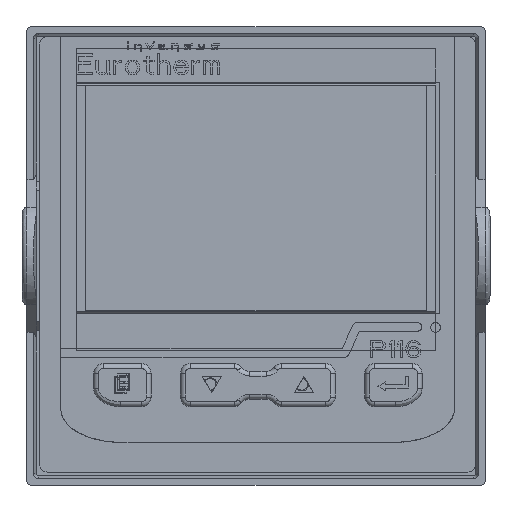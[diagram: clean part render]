
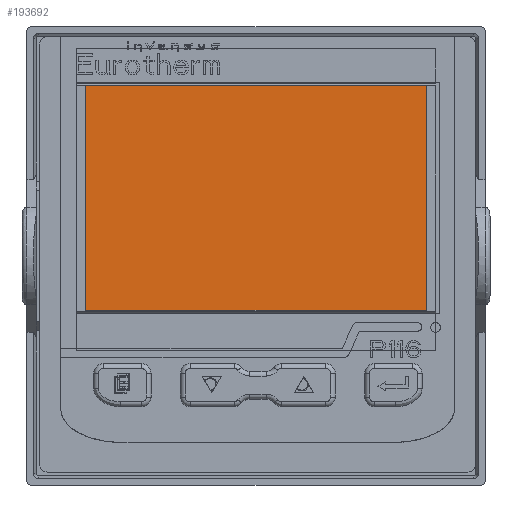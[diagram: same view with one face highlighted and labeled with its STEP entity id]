
A CAD part, top view. The second image highlights one B-rep face of the part: STEP entity #193692.
In plain terms, the highlighted planar face has unit normal (0, 0, 1).
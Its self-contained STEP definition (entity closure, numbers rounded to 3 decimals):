
#53871=DIRECTION('',(0.,-1.,0.));
#53872=VECTOR('',#53871,23.488);
#53873=CARTESIAN_POINT('',(-17.8,17.789,2.));
#53874=LINE('',#53873,#53872);
#53887=DIRECTION('',(0.,1.,0.));
#53888=VECTOR('',#53887,23.488);
#53889=CARTESIAN_POINT('',(17.8,-5.699,2.));
#53890=LINE('',#53889,#53888);
#53895=DIRECTION('',(-1.,0.,0.));
#53896=VECTOR('',#53895,35.6);
#53897=CARTESIAN_POINT('',(17.8,17.789,2.));
#53898=LINE('',#53897,#53896);
#53899=DIRECTION('',(1.,0.,0.));
#53900=VECTOR('',#53899,35.6);
#53901=CARTESIAN_POINT('',(-17.8,-5.699,2.));
#53902=LINE('',#53901,#53900);
#74202=CARTESIAN_POINT('',(17.8,-5.699,2.));
#74203=CARTESIAN_POINT('',(17.8,17.789,2.));
#74204=VERTEX_POINT('',#74202);
#74205=VERTEX_POINT('',#74203);
#74206=CARTESIAN_POINT('',(-17.8,-5.699,2.));
#74207=VERTEX_POINT('',#74206);
#74208=CARTESIAN_POINT('',(-17.8,17.789,2.));
#74209=VERTEX_POINT('',#74208);
#193678=CARTESIAN_POINT('',(0.,6.045,2.));
#193679=DIRECTION('',(0.,0.,1.));
#193680=DIRECTION('',(-1.,0.,0.));
#193681=AXIS2_PLACEMENT_3D('',#193678,#193679,#193680);
#193682=PLANE('',#193681);
#193684=ORIENTED_EDGE('',*,*,#193683,.F.);
#193686=ORIENTED_EDGE('',*,*,#193685,.F.);
#193687=ORIENTED_EDGE('',*,*,#193667,.F.);
#193689=ORIENTED_EDGE('',*,*,#193688,.F.);
#193690=EDGE_LOOP('',(#193684,#193686,#193687,#193689));
#193691=FACE_OUTER_BOUND('',#193690,.F.);
#193667=EDGE_CURVE('',#74209,#74207,#53874,.T.);
#193683=EDGE_CURVE('',#74204,#74205,#53890,.T.);
#193685=EDGE_CURVE('',#74207,#74204,#53902,.T.);
#193688=EDGE_CURVE('',#74205,#74209,#53898,.T.);
#193692=ADVANCED_FACE('',(#193691),#193682,.T.);
